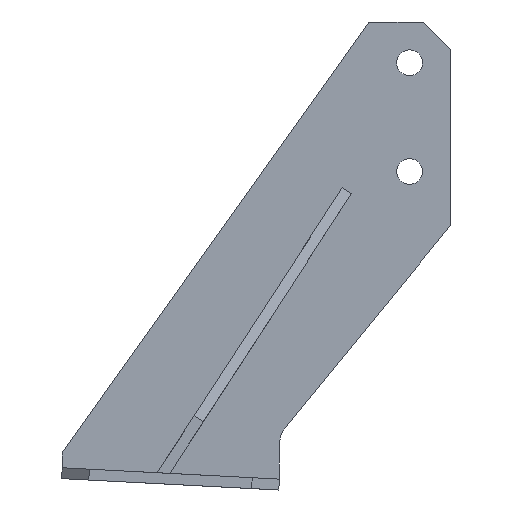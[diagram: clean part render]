
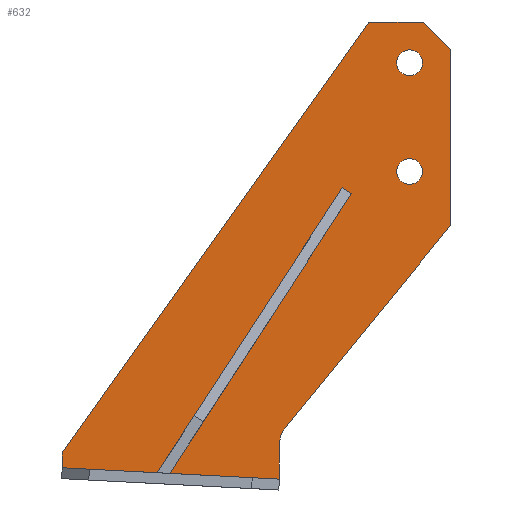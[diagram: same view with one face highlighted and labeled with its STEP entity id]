
A CAD part, front view. The second image highlights one B-rep face of the part: STEP entity #632.
In plain terms, the highlighted planar face has unit normal (0, -1, 0).
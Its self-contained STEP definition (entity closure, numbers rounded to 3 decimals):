
#117=FACE_BOUND('',#192,.T.);
#118=FACE_BOUND('',#193,.T.);
#133=PLANE('',#693);
#161=FACE_OUTER_BOUND('',#191,.T.);
#191=EDGE_LOOP('',(#516,#517,#518,#519,#520,#521,#522,#523,#524));
#192=EDGE_LOOP('',(#525));
#193=EDGE_LOOP('',(#526));
#222=LINE('',#887,#284);
#225=LINE('',#903,#287);
#229=LINE('',#911,#291);
#232=LINE('',#917,#294);
#235=LINE('',#923,#297);
#238=LINE('',#928,#300);
#240=LINE('',#932,#302);
#243=LINE('',#937,#305);
#284=VECTOR('',#734,10.);
#287=VECTOR('',#751,10.);
#291=VECTOR('',#757,10.);
#294=VECTOR('',#762,10.);
#297=VECTOR('',#767,10.);
#300=VECTOR('',#772,10.);
#302=VECTOR('',#776,10.);
#305=VECTOR('',#781,10.);
#343=CIRCLE('',#678,10.);
#344=CIRCLE('',#681,4.75);
#346=CIRCLE('',#684,4.75);
#354=VERTEX_POINT('',#877);
#355=VERTEX_POINT('',#879);
#357=VERTEX_POINT('',#885);
#358=VERTEX_POINT('',#889);
#360=VERTEX_POINT('',#895);
#362=VERTEX_POINT('',#901);
#363=VERTEX_POINT('',#902);
#366=VERTEX_POINT('',#910);
#368=VERTEX_POINT('',#916);
#370=VERTEX_POINT('',#922);
#372=VERTEX_POINT('',#931);
#402=EDGE_CURVE('',#354,#355,#343,.T.);
#406=EDGE_CURVE('',#357,#354,#222,.T.);
#407=EDGE_CURVE('',#358,#358,#344,.T.);
#410=EDGE_CURVE('',#360,#360,#346,.T.);
#413=EDGE_CURVE('',#362,#363,#225,.T.);
#417=EDGE_CURVE('',#363,#366,#229,.T.);
#420=EDGE_CURVE('',#366,#368,#232,.T.);
#423=EDGE_CURVE('',#368,#370,#235,.T.);
#426=EDGE_CURVE('',#370,#357,#238,.T.);
#428=EDGE_CURVE('',#355,#372,#240,.T.);
#431=EDGE_CURVE('',#372,#362,#243,.T.);
#516=ORIENTED_EDGE('',*,*,#413,.F.);
#517=ORIENTED_EDGE('',*,*,#431,.F.);
#518=ORIENTED_EDGE('',*,*,#428,.F.);
#519=ORIENTED_EDGE('',*,*,#402,.F.);
#520=ORIENTED_EDGE('',*,*,#406,.F.);
#521=ORIENTED_EDGE('',*,*,#426,.F.);
#522=ORIENTED_EDGE('',*,*,#423,.F.);
#523=ORIENTED_EDGE('',*,*,#420,.F.);
#524=ORIENTED_EDGE('',*,*,#417,.F.);
#525=ORIENTED_EDGE('',*,*,#407,.T.);
#526=ORIENTED_EDGE('',*,*,#410,.T.);
#632=ADVANCED_FACE('',(#161,#117,#118),#133,.T.);
#678=AXIS2_PLACEMENT_3D('',#880,#727,#728);
#681=AXIS2_PLACEMENT_3D('',#890,#737,#738);
#684=AXIS2_PLACEMENT_3D('',#896,#744,#745);
#693=AXIS2_PLACEMENT_3D('',#939,#783,#784);
#727=DIRECTION('center_axis',(0.,-1.,0.));
#728=DIRECTION('ref_axis',(-0.942,0.,0.336));
#734=DIRECTION('',(-0.633,0.,-0.774));
#737=DIRECTION('center_axis',(0.,1.,0.));
#738=DIRECTION('ref_axis',(1.,0.,0.));
#744=DIRECTION('center_axis',(0.,1.,0.));
#745=DIRECTION('ref_axis',(1.,0.,0.));
#751=DIRECTION('',(0.,0.,1.));
#757=DIRECTION('',(0.58,0.,0.815));
#762=DIRECTION('',(1.,0.,0.));
#767=DIRECTION('',(0.707,0.,-0.707));
#772=DIRECTION('',(0.,0.,-1.));
#776=DIRECTION('',(0.,0.,-1.));
#781=DIRECTION('',(-0.999,0.,0.052));
#783=DIRECTION('center_axis',(0.,-1.,0.));
#784=DIRECTION('ref_axis',(0.,0.,-1.));
#877=CARTESIAN_POINT('',(8.146,0.,-55.239));
#879=CARTESIAN_POINT('',(5.89,0.,-61.566));
#880=CARTESIAN_POINT('Origin',(15.89,0.,-61.566));
#885=CARTESIAN_POINT('',(68.8,0.,19.));
#887=CARTESIAN_POINT('',(5.89,0.,-58.));
#889=CARTESIAN_POINT('',(49.05,0.,39.));
#890=CARTESIAN_POINT('Origin',(53.8,0.,39.));
#895=CARTESIAN_POINT('',(49.05,0.,79.));
#896=CARTESIAN_POINT('Origin',(53.8,0.,79.));
#901=CARTESIAN_POINT('',(-74.,0.,-70.));
#902=CARTESIAN_POINT('',(-74.,0.,-64.5));
#903=CARTESIAN_POINT('',(-74.,0.,-64.5));
#910=CARTESIAN_POINT('',(38.8,0.,94.));
#911=CARTESIAN_POINT('',(38.8,0.,94.));
#916=CARTESIAN_POINT('',(58.8,0.,94.));
#917=CARTESIAN_POINT('',(58.8,0.,94.));
#922=CARTESIAN_POINT('',(68.8,0.,84.));
#923=CARTESIAN_POINT('',(68.8,0.,84.));
#928=CARTESIAN_POINT('',(68.8,0.,19.));
#931=CARTESIAN_POINT('',(5.89,0.,-74.187));
#932=CARTESIAN_POINT('',(5.89,0.,-74.187));
#937=CARTESIAN_POINT('',(-74.,0.,-70.));
#939=CARTESIAN_POINT('Origin',(-2.6,0.,9.907));
